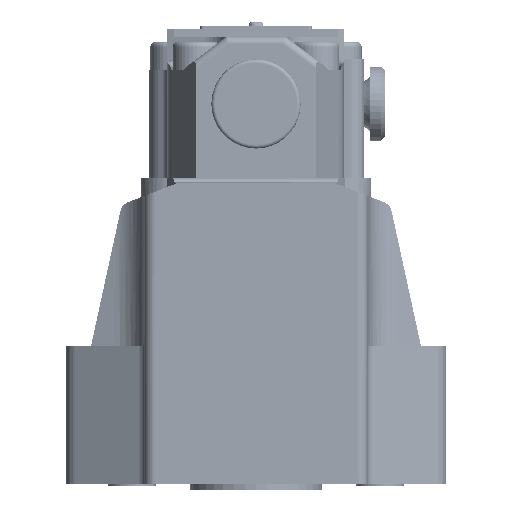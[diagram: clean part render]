
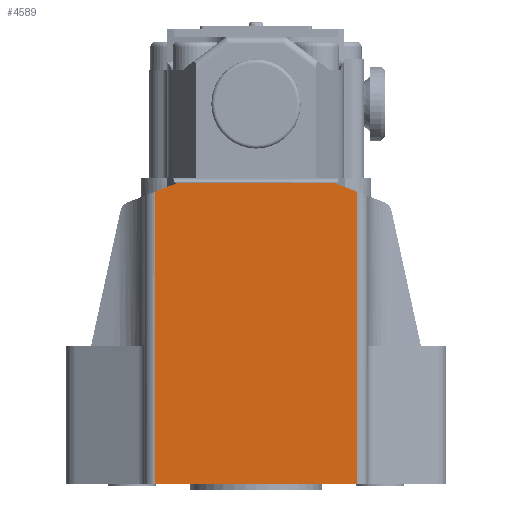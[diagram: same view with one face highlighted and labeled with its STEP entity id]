
A CAD part, left-side view. The second image highlights one B-rep face of the part: STEP entity #4589.
In plain terms, the highlighted planar face has unit normal (-1, 0, 0).
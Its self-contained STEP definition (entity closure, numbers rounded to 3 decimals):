
#967=PLANE('',#17910);
#1770=FACE_OUTER_BOUND('',#6225,.T.);
#2580=LINE('',#71816,#3451);
#2589=LINE('',#71850,#3460);
#2590=LINE('',#71853,#3461);
#2591=LINE('',#71855,#3462);
#2592=LINE('',#71856,#3463);
#2593=LINE('',#71858,#3464);
#3451=VECTOR('',#20089,1.);
#3460=VECTOR('',#20116,1.);
#3461=VECTOR('',#20117,1.);
#3462=VECTOR('',#20118,1.);
#3463=VECTOR('',#20119,1.);
#3464=VECTOR('',#20120,1.);
#4589=ADVANCED_FACE('',(#1770),#967,.F.);
#6225=EDGE_LOOP('',(#9411,#9412,#9413,#9414,#9415,#9416));
#9411=ORIENTED_EDGE('',*,*,#15256,.F.);
#9412=ORIENTED_EDGE('',*,*,#15257,.T.);
#9413=ORIENTED_EDGE('',*,*,#15258,.T.);
#9414=ORIENTED_EDGE('',*,*,#15239,.F.);
#9415=ORIENTED_EDGE('',*,*,#15259,.F.);
#9416=ORIENTED_EDGE('',*,*,#15260,.T.);
#13396=VERTEX_POINT('',#71815);
#13397=VERTEX_POINT('',#71817);
#13413=VERTEX_POINT('',#71851);
#13414=VERTEX_POINT('',#71852);
#13415=VERTEX_POINT('',#71854);
#13416=VERTEX_POINT('',#71857);
#15239=EDGE_CURVE('',#13396,#13397,#2580,.T.);
#15256=EDGE_CURVE('',#13413,#13414,#2589,.T.);
#15257=EDGE_CURVE('',#13413,#13415,#2590,.T.);
#15258=EDGE_CURVE('',#13415,#13397,#2591,.T.);
#15259=EDGE_CURVE('',#13416,#13396,#2592,.T.);
#15260=EDGE_CURVE('',#13416,#13414,#2593,.T.);
#17910=AXIS2_PLACEMENT_3D('',#71859,#20121,#20122);
#20089=DIRECTION('',(0.,1.,0.));
#20116=DIRECTION('',(0.,-1.,0.));
#20117=DIRECTION('',(0.,0.932,-0.362));
#20118=DIRECTION('',(0.,0.,-1.));
#20119=DIRECTION('',(0.,0.,-1.));
#20120=DIRECTION('',(0.,0.932,0.362));
#20121=DIRECTION('',(1.,0.,0.));
#20122=DIRECTION('',(0.,0.,1.));
#71815=CARTESIAN_POINT('',(-15.712,22.897,-12.));
#71816=CARTESIAN_POINT('',(-15.712,22.897,-12.));
#71817=CARTESIAN_POINT('',(-15.712,76.897,-12.));
#71850=CARTESIAN_POINT('',(-15.712,-34.096,68.9));
#71851=CARTESIAN_POINT('',(-15.712,70.691,68.9));
#71852=CARTESIAN_POINT('',(-15.712,29.107,68.9));
#71853=CARTESIAN_POINT('',(-15.712,82.156,64.445));
#71854=CARTESIAN_POINT('',(-15.712,76.897,66.488));
#71855=CARTESIAN_POINT('',(-15.712,76.897,24.));
#71856=CARTESIAN_POINT('',(-15.712,22.897,24.));
#71857=CARTESIAN_POINT('',(-15.712,22.897,66.487));
#71858=CARTESIAN_POINT('',(-15.712,15.712,63.695));
#71859=CARTESIAN_POINT('',(-15.712,22.897,24.));
